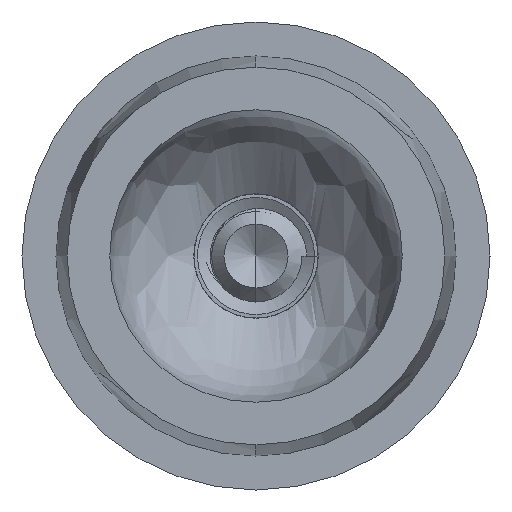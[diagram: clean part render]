
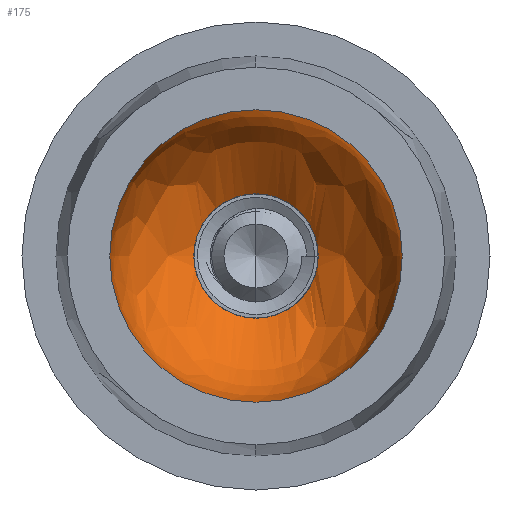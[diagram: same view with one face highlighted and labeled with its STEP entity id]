
A CAD part, left-side view. The second image highlights one B-rep face of the part: STEP entity #175.
In plain terms, the highlighted free-form (B-spline) face has degree [3, 3] with [4, 4] control points.
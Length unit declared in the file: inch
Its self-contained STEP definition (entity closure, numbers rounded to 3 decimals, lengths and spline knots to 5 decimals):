
#52 = AXIS2_PLACEMENT_3D ( 'NONE', #2177, #6769, #2838 ) ;
#175 = ADVANCED_FACE ( 'NONE', ( #5688, #7420 ), #3058, .F. ) ;
#344 = AXIS2_PLACEMENT_3D ( 'NONE', #1122, #5708, #1773 ) ;
#382 = CARTESIAN_POINT ( 'NONE',  ( -0.8125, 0.3125, -0.625 ) ) ;
#419 = CIRCLE ( 'NONE', #2381, 0.133 ) ;
#758 = AXIS2_PLACEMENT_3D ( 'NONE', #3793, #8349, #4453 ) ;
#975 = CARTESIAN_POINT ( 'NONE',  ( -0.8125, -0.3125, 0. ) ) ;
#1032 = CARTESIAN_POINT ( 'NONE',  ( 0.4375, 0.3125, 0.625 ) ) ;
#1122 = CARTESIAN_POINT ( 'NONE',  ( -0.8125, 0., 0. ) ) ;
#1663 = CARTESIAN_POINT ( 'NONE',  ( -0.8125, -0.3125, 0. ) ) ;
#1688 = CARTESIAN_POINT ( 'NONE',  ( -0.8125, 0.3125, 0. ) ) ;
#1773 = DIRECTION ( 'NONE',  ( 0., 1., 0. ) ) ;
#1787 = ORIENTED_EDGE ( 'NONE', *, *, #3642, .F. ) ;
#1811 = ORIENTED_EDGE ( 'NONE', *, *, #8119, .T. ) ;
#1989 = CARTESIAN_POINT ( 'NONE',  ( -0.8125, 0.3125, 0. ) ) ;
#2137 = CARTESIAN_POINT ( 'NONE',  ( -0.52972, 0., -0.133 ) ) ;
#2177 = CARTESIAN_POINT ( 'NONE',  ( -0.52972, 0., 0. ) ) ;
#2351 = CARTESIAN_POINT ( 'NONE',  ( -0.8125, 0.3125, 0. ) ) ;
#2381 = AXIS2_PLACEMENT_3D ( 'NONE', #6497, #2570, #7158 ) ;
#2570 = DIRECTION ( 'NONE',  ( -1., 0., 0. ) ) ;
#2838 = DIRECTION ( 'NONE',  ( 0., 0., -1. ) ) ;
#2996 = CARTESIAN_POINT ( 'NONE',  ( -0.8125, -0.3125, 0. ) ) ;
#3058 =( BOUNDED_SURFACE ( )  B_SPLINE_SURFACE ( 3, 3, ( 
 ( #6909, #1663, #975, #2996 ),
 ( #7567, #3652, #8214, #4310 ),
 ( #382, #4971, #1032, #5624 ),
 ( #1688, #6283, #2351, #6936 ) ),
 .UNSPECIFIED., .F., .F., .F. ) 
 B_SPLINE_SURFACE_WITH_KNOTS ( ( 4, 4 ),
 ( 4, 4 ),
 ( 0., 1. ),
 ( 0., 1. ),
 .UNSPECIFIED. ) 
 GEOMETRIC_REPRESENTATION_ITEM ( )  RATIONAL_B_SPLINE_SURFACE ( (
 ( 1., 0.333, 0.333, 1.),
 ( 0.333, 0.111, 0.111, 0.333),
 ( 0.333, 0.111, 0.111, 0.333),
 ( 1., 0.333, 0.333, 1.) ) ) 
 REPRESENTATION_ITEM ( '' )  SURFACE ( )  );
#3642 = EDGE_CURVE ( 'NONE', #4056, #5176, #419, .T. ) ;
#3652 = CARTESIAN_POINT ( 'NONE',  ( 0.4375, -0.3125, -0.625 ) ) ;
#3792 = VERTEX_POINT ( 'NONE', #1989 ) ;
#3793 = CARTESIAN_POINT ( 'NONE',  ( -0.8125, 0., 0. ) ) ;
#4056 = VERTEX_POINT ( 'NONE', #8009 ) ;
#4310 = CARTESIAN_POINT ( 'NONE',  ( -0.8125, -0.3125, 0.625 ) ) ;
#4453 = DIRECTION ( 'NONE',  ( 0., 1., 0. ) ) ;
#4489 = CIRCLE ( 'NONE', #758, 0.3125 ) ;
#4800 = ORIENTED_EDGE ( 'NONE', *, *, #7632, .F. ) ;
#4971 = CARTESIAN_POINT ( 'NONE',  ( 0.4375, 0.3125, -0.625 ) ) ;
#5176 = VERTEX_POINT ( 'NONE', #2137 ) ;
#5624 = CARTESIAN_POINT ( 'NONE',  ( -0.8125, 0.3125, 0.625 ) ) ;
#5679 = CARTESIAN_POINT ( 'NONE',  ( -0.8125, -0.3125, 0. ) ) ;
#5688 = FACE_BOUND ( 'NONE', #7075, .T. ) ;
#5708 = DIRECTION ( 'NONE',  ( -1., 0., 0. ) ) ;
#6283 = CARTESIAN_POINT ( 'NONE',  ( -0.8125, 0.3125, 0. ) ) ;
#6429 = CIRCLE ( 'NONE', #344, 0.3125 ) ;
#6497 = CARTESIAN_POINT ( 'NONE',  ( -0.52972, 0., 0. ) ) ;
#6769 = DIRECTION ( 'NONE',  ( -1., 0., 0. ) ) ;
#6909 = CARTESIAN_POINT ( 'NONE',  ( -0.8125, -0.3125, 0. ) ) ;
#6936 = CARTESIAN_POINT ( 'NONE',  ( -0.8125, 0.3125, 0. ) ) ;
#7075 = EDGE_LOOP ( 'NONE', ( #4800, #1787 ) ) ;
#7158 = DIRECTION ( 'NONE',  ( 0., 0., -1. ) ) ;
#7242 = CIRCLE ( 'NONE', #52, 0.133 ) ;
#7420 = FACE_OUTER_BOUND ( 'NONE', #7844, .T. ) ;
#7567 = CARTESIAN_POINT ( 'NONE',  ( -0.8125, -0.3125, -0.625 ) ) ;
#7632 = EDGE_CURVE ( 'NONE', #5176, #4056, #7242, .T. ) ;
#7844 = EDGE_LOOP ( 'NONE', ( #8080, #1811 ) ) ;
#8009 = CARTESIAN_POINT ( 'NONE',  ( -0.52972, 0., 0.133 ) ) ;
#8080 = ORIENTED_EDGE ( 'NONE', *, *, #8239, .T. ) ;
#8119 = EDGE_CURVE ( 'NONE', #3792, #8166, #6429, .T. ) ;
#8166 = VERTEX_POINT ( 'NONE', #5679 ) ;
#8214 = CARTESIAN_POINT ( 'NONE',  ( 0.4375, -0.3125, 0.625 ) ) ;
#8239 = EDGE_CURVE ( 'NONE', #8166, #3792, #4489, .T. ) ;
#8349 = DIRECTION ( 'NONE',  ( -1., 0., 0. ) ) ;
